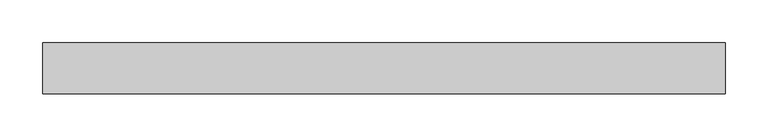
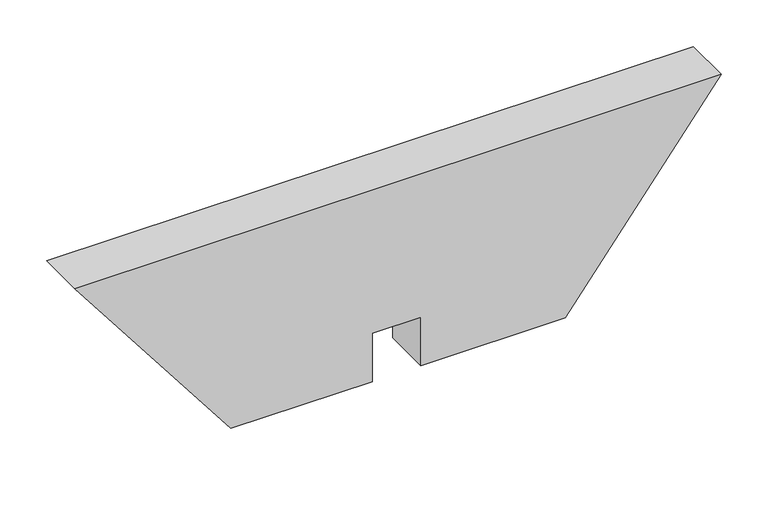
"""IFC4 building model written with IfcOpenShell, lengths in millimetres: proxy geometry, Modelos genéricos 86 : Modelos genéricos 3."""

from ifc_helpers import new_model, si_unit, frame, origin, place, context, project, spatial, polyline, outline, extrude, source, transform, mapped, element, save


def generic_models_0bdb9a71(model_context):
    return source(origin(), model_context, "Body", "SweptSolid", [
        extrude(outline(polyline([(3347.4183406, -8594.8343738), (3347.4183406, -9394.8343738), (3096.9471217, -9201.7628093), (3096.9471217, -9026.7628093), (3160.0, -9026.7628093), (3160.0, -8966.7628093), (3096.9471217, -8966.7628093), (3096.9471217, -8787.9059384), (3347.4183406, -8594.8343738)])), frame((0.0, -2241.3761835, 0.0), z_axis=(0.0, 1.0, 0.0), x_axis=(0.0, 0.0, 1.0)), (0.0, 0.0, 1.0), 60.0),
    ])


if __name__ == "__main__":
    model = new_model("IFC4")
    model_context = context("Model", 3, world=origin())
    ifc_project = project(units=[si_unit("LENGTHUNIT", "METRE", prefix="MILLI")], contexts=[model_context])
    site = spatial("IfcSite", under=ifc_project)
    building = spatial("IfcBuilding", under=site)
    placement = place(None, origin())
    generic_models_shape = generic_models_0bdb9a71(model_context)
    element("IfcBuildingElementProxy", 1, Name="Modelos genéricos 86 : Modelos genéricos 3", ObjectType="Modelos genéricos 86 : Modelos genéricos 3", at=placement, inside=building, context=model_context, shape_type="MappedRepresentation", body=[
        mapped(generic_models_shape, transform((0.0, 0.0, 0.0), x_axis=(1.0, 0.0, 0.0), y_axis=(0.0, 1.0, 0.0), z_axis=(0.0, 0.0, 1.0))),
    ])
    save(model, "model.ifc")
